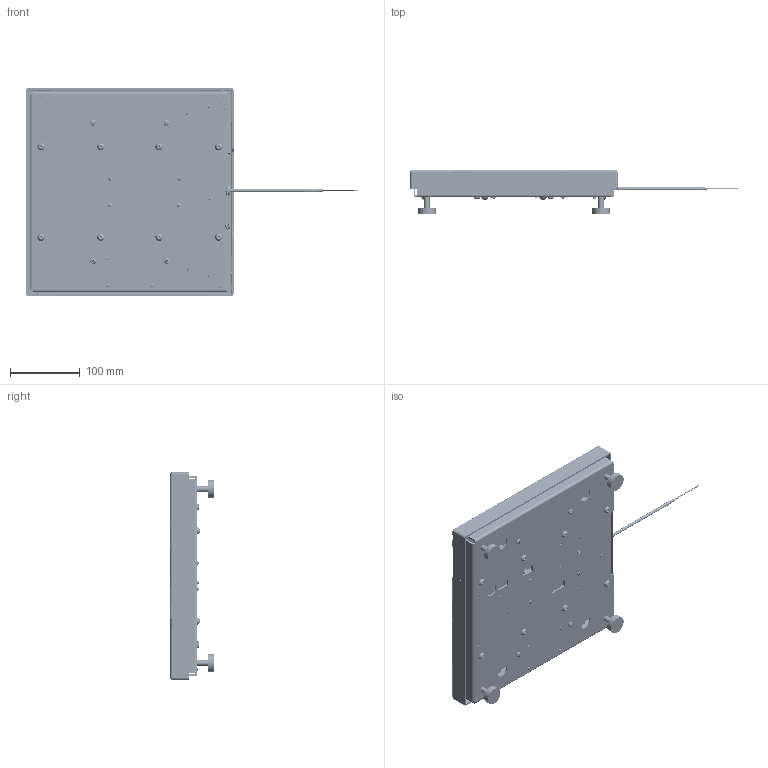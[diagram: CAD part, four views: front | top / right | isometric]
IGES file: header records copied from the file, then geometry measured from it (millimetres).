
Start section: SolidWorks IGES file using analytic representation for surfaces
Global section: file name: C:\0_Work\SolidWorks\~0_E-Scales\12x12\HI1212SBA-66.IGS; native system: SolidWorks 2017; preprocessor: SolidWorks 2017; author: vach01; date: 190822.081408; units: inch
Bounding box: 477 x 62.96 x 298.19 mm (x, y, z)
Surface area: 632399.8 mm2 (no closed solid volume)
Topology: 0 solids, 0 shells, 11747 faces, 107578 edges, 107484 vertices
Faces by surface type: bspline 8839, revolution 2908
